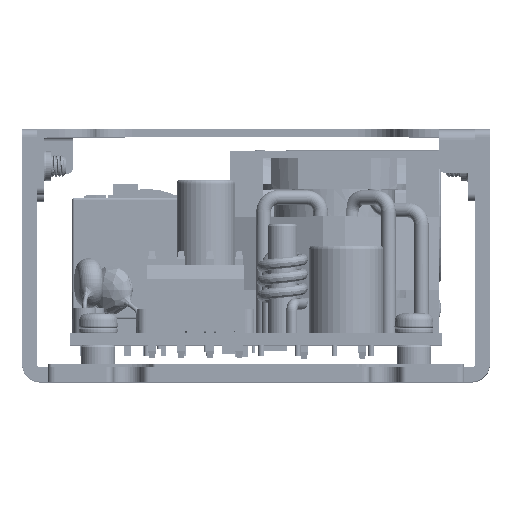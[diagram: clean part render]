
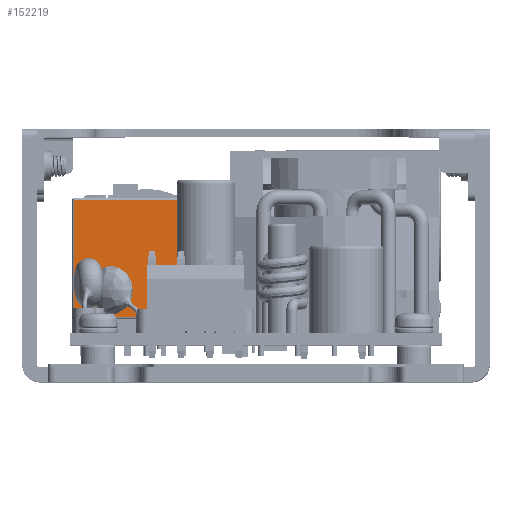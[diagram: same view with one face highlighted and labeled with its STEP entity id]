
A CAD part, top view. The second image highlights one B-rep face of the part: STEP entity #152219.
In plain terms, the highlighted planar face has unit normal (0, 0, 1).
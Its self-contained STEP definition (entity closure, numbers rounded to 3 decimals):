
#432 = VERTEX_POINT ( 'NONE', #94186 ) ;
#6275 = LINE ( 'NONE', #88572, #113445 ) ;
#7574 = LINE ( 'NONE', #89873, #30732 ) ;
#14873 = ORIENTED_EDGE ( 'NONE', *, *, #97080, .T. ) ;
#28609 = CARTESIAN_POINT ( 'NONE',  ( -25.846, 7.411, 8.118 ) ) ;
#30732 = VECTOR ( 'NONE', #172160, 1000. ) ;
#44381 = CARTESIAN_POINT ( 'NONE',  ( -5.746, 7.411, 8.118 ) ) ;
#53686 = ORIENTED_EDGE ( 'NONE', *, *, #59512, .T. ) ;
#59512 = EDGE_CURVE ( 'NONE', #216114, #184311, #6275, .T. ) ;
#63619 = ORIENTED_EDGE ( 'NONE', *, *, #260269, .T. ) ;
#70561 = LINE ( 'NONE', #152839, #88384 ) ;
#82279 = ORIENTED_EDGE ( 'NONE', *, *, #174875, .T. ) ;
#83830 = VECTOR ( 'NONE', #126708, 1000. ) ;
#88384 = VECTOR ( 'NONE', #235163, 1000. ) ;
#88572 = CARTESIAN_POINT ( 'NONE',  ( -25.546, 7.411, 8.118 ) ) ;
#89873 = CARTESIAN_POINT ( 'NONE',  ( -25.846, -8.889, 8.118 ) ) ;
#90293 = CARTESIAN_POINT ( 'NONE',  ( -25.546, 7.111, 8.118 ) ) ;
#94186 = CARTESIAN_POINT ( 'NONE',  ( -5.746, -8.889, 8.118 ) ) ;
#97080 = EDGE_CURVE ( 'NONE', #193200, #216114, #70561, .T. ) ;
#110927 = DIRECTION ( 'NONE',  ( 0., 0., -1. ) ) ;
#113445 = VECTOR ( 'NONE', #170836, 1000. ) ;
#126708 = DIRECTION ( 'NONE',  ( 0., 1., 0. ) ) ;
#131185 = FACE_OUTER_BOUND ( 'NONE', #193810, .T. ) ;
#152219 = ADVANCED_FACE ( 'NONE', ( #131185 ), #213485, .F. ) ;
#152839 = CARTESIAN_POINT ( 'NONE',  ( -25.846, 7.111, 8.118 ) ) ;
#152963 = AXIS2_PLACEMENT_3D ( 'NONE', #28609, #110927, #193226 ) ;
#170836 = DIRECTION ( 'NONE',  ( 0., -1., 0. ) ) ;
#172160 = DIRECTION ( 'NONE',  ( 1., 0., 0. ) ) ;
#174875 = EDGE_CURVE ( 'NONE', #432, #193200, #229221, .T. ) ;
#184311 = VERTEX_POINT ( 'NONE', #224137 ) ;
#193200 = VERTEX_POINT ( 'NONE', #238874 ) ;
#193226 = DIRECTION ( 'NONE',  ( -1., 0., 0. ) ) ;
#193810 = EDGE_LOOP ( 'NONE', ( #63619, #82279, #14873, #53686 ) ) ;
#213485 = PLANE ( 'NONE',  #152963 ) ;
#216114 = VERTEX_POINT ( 'NONE', #90293 ) ;
#224137 = CARTESIAN_POINT ( 'NONE',  ( -25.546, -8.889, 8.118 ) ) ;
#229221 = LINE ( 'NONE', #44381, #83830 ) ;
#235163 = DIRECTION ( 'NONE',  ( -1., 0., 0. ) ) ;
#238874 = CARTESIAN_POINT ( 'NONE',  ( -5.746, 7.111, 8.118 ) ) ;
#260269 = EDGE_CURVE ( 'NONE', #184311, #432, #7574, .T. ) ;
